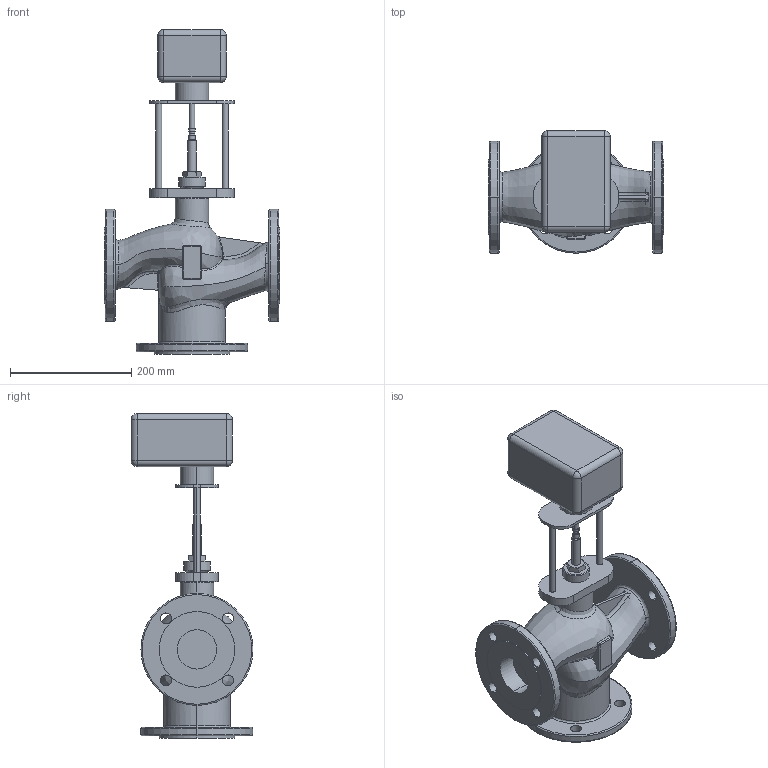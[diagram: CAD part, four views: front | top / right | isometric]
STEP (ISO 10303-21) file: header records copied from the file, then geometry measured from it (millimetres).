
FILE_DESCRIPTION (( 'STEP AP214' ), '1' );
FILE_NAME ('TRV-3-65.STEP', '2025-12-16T05:26:27', ( '' ), ( '' ), 'SwSTEP 2.0', 'SolidWorks 2023', '' );
FILE_SCHEMA (( 'AUTOMOTIVE_DESIGN' ));
Length unit declared in the file: millimetre
Products named in the file (1): TRV-3-65
Bounding box: 290 x 201.5 x 536.5 mm (x, y, z)
Volume: 5934447.2 mm3; surface area: 457298.6 mm2
Topology: 1 solids, 4 shells, 251 faces, 600 edges, 364 vertices
Faces by surface type: cylinder 105, plane 58, bspline 38, torus 21, cone 17, sphere 12
Entity records: 18155 total; most frequent: CARTESIAN_POINT 12622, ORIENTED_EDGE 1176, DIRECTION 1091, EDGE_CURVE 588, AXIS2_PLACEMENT_3D 456, VERTEX_POINT 364, EDGE_LOOP 298, ADVANCED_FACE 251
